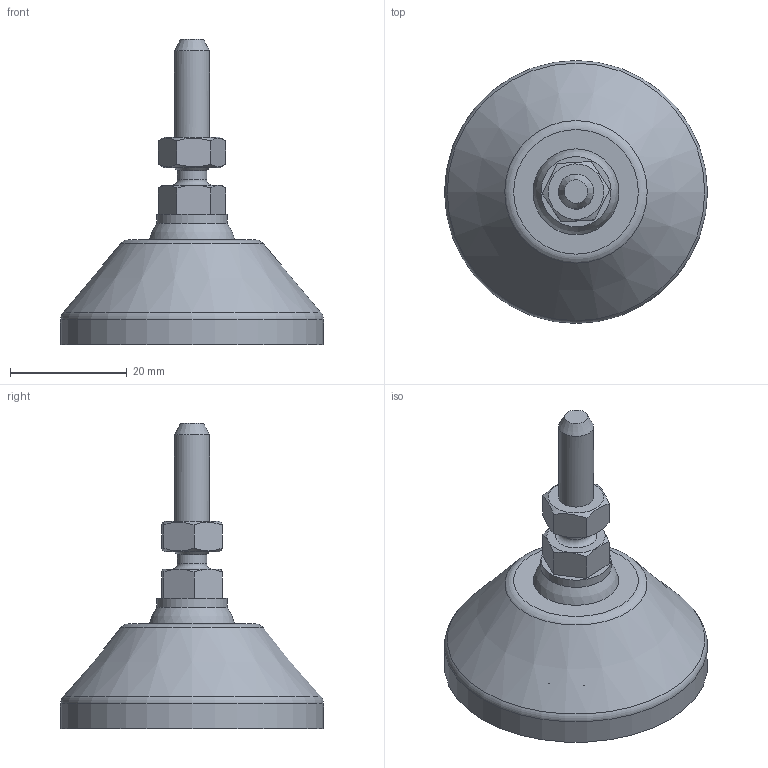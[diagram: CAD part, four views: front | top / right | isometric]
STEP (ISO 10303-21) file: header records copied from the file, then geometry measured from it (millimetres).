
FILE_DESCRIPTION(('STEP AP203'), '1');
FILE_NAME('栖闉罻', '', ('UNSPECIFIED'), ('UNSPECIFIED'), 'C3D Converter', 'C3D Toolkit', '');
FILE_SCHEMA(('CONFIG_CONTROL_DESIGN'));
Length unit declared in the file: millimetre
Products named in the file (4): A00015.1045; A00020.106030
Assembly tree (3 placements, depth 3):
  (unnamed)
    A00015.1045
    A00020.106030
      (unnamed)
Bounding box: 45 x 45 x 52.3 mm (x, y, z)
Volume: 15227.6 mm3; surface area: 8345 mm2
Topology: 3 solids, 3 shells, 134 faces, 371 edges, 247 vertices
Faces by surface type: plane 78, cylinder 26, cone 15, torus 13, sphere 2
Full cylindrical faces by diameter (mm): 4.917 x1, 5 x1, 6 x1, 12 x1, 14.3 x1, 15 x2, 15.5 x1, 37.3 x1, 45 x1
Entity records: 7504 total; most frequent: CARTESIAN_POINT 2883, DIRECTION 702, ORIENTED_EDGE 688, EDGE_CURVE 344, AXIS2_PLACEMENT_3D 278, VERTEX_POINT 246, EDGE_LOOP 166, FACE_BOUND 146
